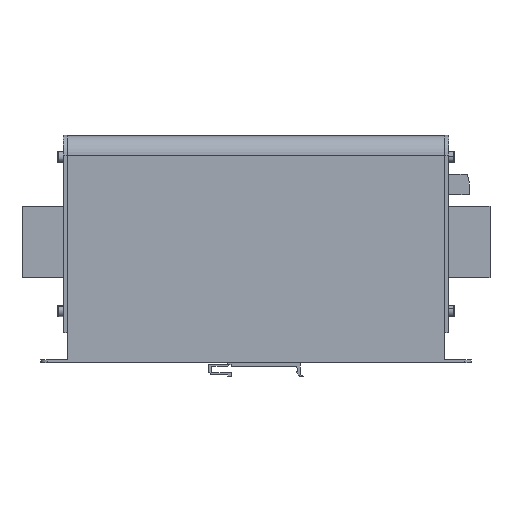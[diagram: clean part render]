
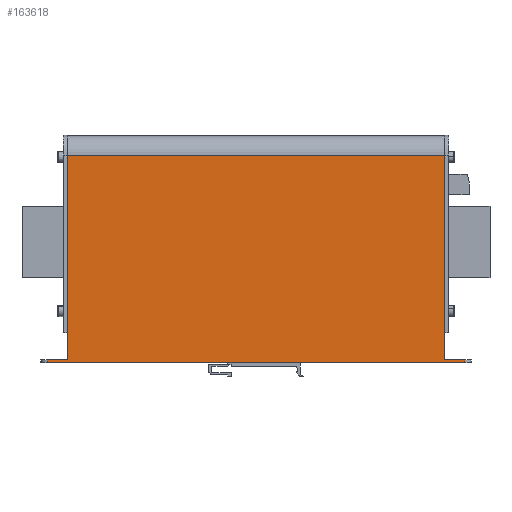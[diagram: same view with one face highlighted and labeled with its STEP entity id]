
A CAD part, left-side view. The second image highlights one B-rep face of the part: STEP entity #163618.
In plain terms, the highlighted planar face has unit normal (-1, 0, 0).
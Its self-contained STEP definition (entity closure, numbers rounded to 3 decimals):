
#2154 = EDGE_CURVE ( 'NONE', #166232, #121999, #130180, .T. ) ;
#12882 = LINE ( 'NONE', #27451, #102125 ) ;
#14102 = CARTESIAN_POINT ( 'NONE',  ( -44., 109., 1.5 ) ) ;
#22400 = VECTOR ( 'NONE', #58025, 1000. ) ;
#25443 = ORIENTED_EDGE ( 'NONE', *, *, #104512, .T. ) ;
#27451 = CARTESIAN_POINT ( 'NONE',  ( -44., -95.5, 115. ) ) ;
#30747 = ORIENTED_EDGE ( 'NONE', *, *, #143145, .T. ) ;
#39563 = VECTOR ( 'NONE', #155768, 1000. ) ;
#39662 = VERTEX_POINT ( 'NONE', #178908 ) ;
#40452 = CARTESIAN_POINT ( 'NONE',  ( -44., 105.75, -327.14 ) ) ;
#41419 = EDGE_CURVE ( 'NONE', #110565, #149868, #12882, .T. ) ;
#44924 = CARTESIAN_POINT ( 'NONE',  ( -44., -105.75, -327.14 ) ) ;
#57022 = VERTEX_POINT ( 'NONE', #104460 ) ;
#57066 = VECTOR ( 'NONE', #144706, 1000. ) ;
#58025 = DIRECTION ( 'NONE',  ( 0., -1., 0. ) ) ;
#63279 = ORIENTED_EDGE ( 'NONE', *, *, #2154, .T. ) ;
#65389 = CARTESIAN_POINT ( 'NONE',  ( -44., 95.5, 1.5 ) ) ;
#65867 = LINE ( 'NONE', #97961, #75106 ) ;
#66126 = ORIENTED_EDGE ( 'NONE', *, *, #82354, .F. ) ;
#66646 = CARTESIAN_POINT ( 'NONE',  ( -44., 109., 105. ) ) ;
#69076 = CARTESIAN_POINT ( 'NONE',  ( -44., -95.5, 105. ) ) ;
#75106 = VECTOR ( 'NONE', #178680, 1000. ) ;
#80124 = ORIENTED_EDGE ( 'NONE', *, *, #131167, .T. ) ;
#82354 = EDGE_CURVE ( 'NONE', #118839, #39662, #150306, .T. ) ;
#96844 = PLANE ( 'NONE',  #162347 ) ;
#97961 = CARTESIAN_POINT ( 'NONE',  ( -44., 109., 1.5 ) ) ;
#100608 = VECTOR ( 'NONE', #141271, 1000. ) ;
#101129 = CARTESIAN_POINT ( 'NONE',  ( -44., -95.5, 1.5 ) ) ;
#102125 = VECTOR ( 'NONE', #182834, 1000. ) ;
#103706 = EDGE_CURVE ( 'NONE', #149868, #109960, #65867, .T. ) ;
#104460 = CARTESIAN_POINT ( 'NONE',  ( -44., -105.75, 0. ) ) ;
#104512 = EDGE_CURVE ( 'NONE', #118839, #57022, #152357, .T. ) ;
#106770 = CARTESIAN_POINT ( 'NONE',  ( -44., 109., 0. ) ) ;
#109960 = VERTEX_POINT ( 'NONE', #197194 ) ;
#110565 = VERTEX_POINT ( 'NONE', #69076 ) ;
#111632 = CARTESIAN_POINT ( 'NONE',  ( -44., 95.5, 115. ) ) ;
#116317 = CARTESIAN_POINT ( 'NONE',  ( -44., 95.5, 105. ) ) ;
#118839 = VERTEX_POINT ( 'NONE', #156356 ) ;
#119488 = ORIENTED_EDGE ( 'NONE', *, *, #103706, .F. ) ;
#120483 = EDGE_LOOP ( 'NONE', ( #179153, #30747, #63279, #176827, #66126, #25443, #80124, #119488 ) ) ;
#121999 = VERTEX_POINT ( 'NONE', #65389 ) ;
#126041 = DIRECTION ( 'NONE',  ( 0., -1., 0. ) ) ;
#127961 = CARTESIAN_POINT ( 'NONE',  ( -44., 109., 1.5 ) ) ;
#130180 = LINE ( 'NONE', #111632, #57066 ) ;
#131167 = EDGE_CURVE ( 'NONE', #57022, #109960, #188856, .T. ) ;
#134742 = DIRECTION ( 'NONE',  ( 0., 0., 1. ) ) ;
#141271 = DIRECTION ( 'NONE',  ( 0., 1., 0. ) ) ;
#143145 = EDGE_CURVE ( 'NONE', #110565, #166232, #144355, .T. ) ;
#144355 = LINE ( 'NONE', #66646, #100608 ) ;
#144706 = DIRECTION ( 'NONE',  ( 0., 0., -1. ) ) ;
#149868 = VERTEX_POINT ( 'NONE', #101129 ) ;
#150306 = LINE ( 'NONE', #40452, #155294 ) ;
#152357 = LINE ( 'NONE', #106770, #22400 ) ;
#155294 = VECTOR ( 'NONE', #134742, 1000. ) ;
#155768 = DIRECTION ( 'NONE',  ( 0., 0., 1. ) ) ;
#156356 = CARTESIAN_POINT ( 'NONE',  ( -44., 105.75, 0. ) ) ;
#162347 = AXIS2_PLACEMENT_3D ( 'NONE', #127961, #191080, #175515 ) ;
#163618 = ADVANCED_FACE ( 'NONE', ( #190064 ), #96844, .F. ) ;
#166232 = VERTEX_POINT ( 'NONE', #116317 ) ;
#171240 = EDGE_CURVE ( 'NONE', #39662, #121999, #204720, .T. ) ;
#175515 = DIRECTION ( 'NONE',  ( 0., 1., 0. ) ) ;
#176827 = ORIENTED_EDGE ( 'NONE', *, *, #171240, .F. ) ;
#178680 = DIRECTION ( 'NONE',  ( 0., -1., 0. ) ) ;
#178908 = CARTESIAN_POINT ( 'NONE',  ( -44., 105.75, 1.5 ) ) ;
#179153 = ORIENTED_EDGE ( 'NONE', *, *, #41419, .F. ) ;
#182834 = DIRECTION ( 'NONE',  ( 0., 0., -1. ) ) ;
#184178 = VECTOR ( 'NONE', #126041, 1000. ) ;
#188856 = LINE ( 'NONE', #44924, #39563 ) ;
#190064 = FACE_OUTER_BOUND ( 'NONE', #120483, .T. ) ;
#191080 = DIRECTION ( 'NONE',  ( 1., 0., 0. ) ) ;
#197194 = CARTESIAN_POINT ( 'NONE',  ( -44., -105.75, 1.5 ) ) ;
#204720 = LINE ( 'NONE', #14102, #184178 ) ;
